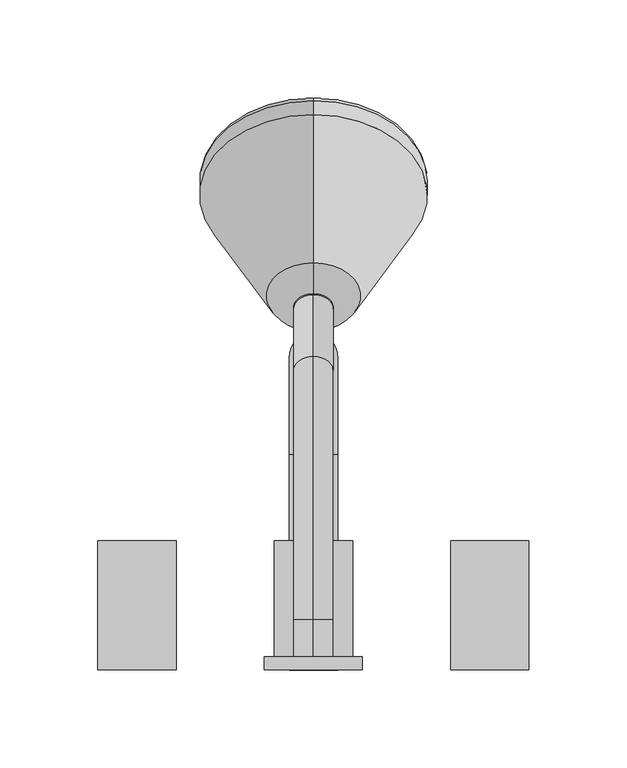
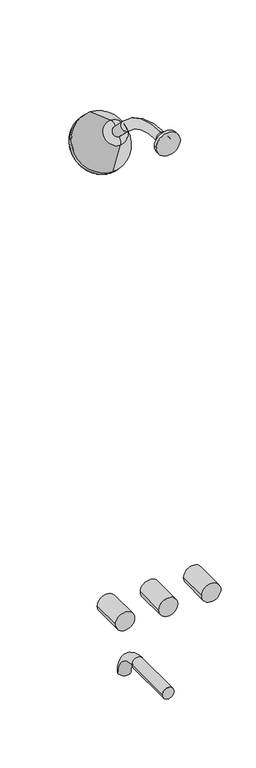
"""IFC4 building model written with IfcOpenShell, lengths in millimetres: flow terminal geometry, Cdo Ducha : Cdo Ducha."""

from ifc_helpers import new_model, si_unit, point, frame, frame_2d, origin, place, context, project, spatial, polyline, circle_curve, ellipse_curve, trimmed, segment, composite_curve, outline, extrude, source, transform, mapped, element, save
from ifc_brep_helpers import plane_surface, cylinder_surface, revolved_surface, advanced_brep


def flow_terminal_b83d6339(model_context):
    return source(origin(), model_context, "Body", "SolidModel", [
        extrude(outline(composite_curve([segment(trimmed(circle_curve(frame_2d((1020.0, 90.0)), 20.0), [point((1020.0, 110.0))], [point((1020.0, 70.0))], False, "CARTESIAN"), True, "CONTINUOUS"), segment(trimmed(circle_curve(frame_2d((1020.0, 90.0)), 20.0), [point((1020.0, 70.0))], [point((1020.0, 110.0))], False, "CARTESIAN"), True, "CONTINUOUS")], self_intersect=False)), frame((0.0, 0.0, 0.0), z_axis=(0.0, 1.0, 0.0), x_axis=(0.0, 0.0, 1.0)), (0.0, 0.0, 1.0), 66.0612949),
        extrude(outline(composite_curve([segment(trimmed(circle_curve(frame_2d((1020.0, -90.0)), 20.0), [point((1020.0, -110.0))], [point((1020.0, -70.0))], False, "CARTESIAN"), True, "CONTINUOUS"), segment(trimmed(circle_curve(frame_2d((1020.0, -90.0)), 20.0), [point((1020.0, -70.0))], [point((1020.0, -110.0))], False, "CARTESIAN"), True, "CONTINUOUS")], self_intersect=False)), frame((0.0, 0.0, 0.0), z_axis=(0.0, 1.0, 0.0), x_axis=(0.0, 0.0, 1.0)), (0.0, 0.0, 1.0), 66.0612949),
        advanced_brep(
        [(-12.3731491, 0.0, 830.0), (12.3731491, 0.0, 830.0), (-12.3731491, 110.0, 830.0), (12.3731491, 110.0, 830.0), (-12.3731491, 159.4974747, 780.5025253), (12.3731491, 159.4974747, 780.5025253)],
        [
            (0, 1, circle_curve(frame((0.0, 0.0, 830.0), z_axis=(0.0, -1.0, 0.0), x_axis=(1.0, 0.0, 0.0)), 12.3731491)),
            (1, 0, circle_curve(frame((0.0, 0.0, 830.0), z_axis=(0.0, -1.0, 0.0), x_axis=(1.0, 0.0, 0.0)), 12.3731491)),
            (0, 2),
            (2, 3, circle_curve(frame((0.0, 110.0, 830.0), z_axis=(0.0, -1.0, 0.0), x_axis=(1.0, 0.0, 0.0)), 12.3731491)),
            (3, 1),
            (3, 2, circle_curve(frame((0.0, 110.0, 830.0), z_axis=(0.0, -1.0, 0.0), x_axis=(1.0, 0.0, 0.0)), 12.3731491)),
            (4, 5, circle_curve(frame((0.0, 159.4974747, 780.5025253), z_axis=(0.0, 0.0, -1.0), x_axis=(1.0, 0.0, 0.0)), 12.3731491)),
            (5, 4, circle_curve(frame((0.0, 159.4974747, 780.5025253), z_axis=(0.0, 0.0, -1.0), x_axis=(1.0, 0.0, 0.0)), 12.3731491)),
            (5, 3, circle_curve(frame((12.3731491, 110.0, 780.5025253), z_axis=(1.0, 0.0, 0.0), x_axis=(0.0, 0.0, 1.0)), 49.4974747)),
            (2, 4, circle_curve(frame((-12.3731491, 110.0, 780.5025253), z_axis=(-1.0, 0.0, 0.0), x_axis=(0.0, 0.0, 1.0)), 49.4974747)),
        ],
        [
            plane_surface(frame((0.0, 0.0, 830.0), z_axis=(0.0, -1.0, 0.0), x_axis=(1.0, 0.0, 0.0))),
            cylinder_surface(frame((0.0, 0.0, 830.0), z_axis=(0.0, -1.0, 0.0), x_axis=(1.0, 0.0, 0.0)), 12.3731491),
            plane_surface(frame((0.0, 159.4974747, 780.5025253), z_axis=(0.0, 0.0, -1.0), x_axis=(1.0, 0.0, 0.0))),
            revolved_surface(trimmed(ellipse_curve(frame((0.0, 110.0, 830.0), z_axis=(0.0, -1.0, 0.0), x_axis=(1.0, 0.0, 0.0)), 12.3731491, 12.3731491), [point((-12.3731491, 110.0, 830.0))], [point((12.3731491, 110.0, 830.0))], True, "CARTESIAN"), (0.0, 110.0, 780.5025253), (-1.0, 0.0, 0.0)),
            revolved_surface(trimmed(ellipse_curve(frame((0.0, 110.0, 830.0), z_axis=(0.0, -1.0, 0.0), x_axis=(1.0, 0.0, 0.0)), 12.3731491, 12.3731491), [point((12.3731491, 110.0, 830.0))], [point((-12.3731491, 110.0, 830.0))], True, "CARTESIAN"), (0.0, 110.0, 780.5025253), (-1.0, 0.0, 0.0)),
        ],
        [
            (0, [[1, 2]]),
            (1, [[-1, 3, 4, 5]]),
            (1, [[-2, -5, 6, -3]]),
            (2, [[7, 8]]),
            (3, [[9, -4, 10, -8]]),
            (4, [[-10, -6, -9, -7]]),
        ],
    ),
        extrude(outline(composite_curve([segment(trimmed(circle_curve(frame_2d((1020.0, 0.0)), 20.0), [point((1020.0, -20.0))], [point((1020.0, 20.0))], False, "CARTESIAN"), True, "CONTINUOUS"), segment(trimmed(circle_curve(frame_2d((1020.0, 0.0)), 20.0), [point((1020.0, 20.0))], [point((1020.0, -20.0))], False, "CARTESIAN"), True, "CONTINUOUS")], self_intersect=False)), frame((0.0, 0.0, 0.0), z_axis=(0.0, 1.0, 0.0), x_axis=(0.0, 0.0, 1.0)), (0.0, 0.0, 1.0), 66.0612949),
        extrude(outline(composite_curve([segment(trimmed(circle_curve(frame_2d((2040.0, 0.0)), 25.0), [point((2040.0, -25.0))], [point((2040.0, 25.0))], False, "CARTESIAN"), True, "CONTINUOUS"), segment(trimmed(circle_curve(frame_2d((2040.0, 0.0)), 25.0), [point((2040.0, 25.0))], [point((2040.0, -25.0))], False, "CARTESIAN"), True, "CONTINUOUS")], self_intersect=False)), frame((0.0, 0.0, 0.0), z_axis=(0.0, 1.0, 0.0), x_axis=(0.0, 0.0, 1.0)), (0.0, 0.0, 1.0), 6.4821489),
        advanced_brep(
        [(0.0, 207.6624735, 1966.3331882), (0.0, 173.6668118, 1932.3375265), (0.0, 177.1555994, 1948.0744304), (0.0, 191.9255696, 1962.8444006), (0.0, 283.255056, 1938.8197382), (0.0, 201.1802618, 1856.744944), (0.0, 290.3261238, 1931.7486704), (0.0, 208.2513296, 1849.6738762), (0.0, 290.3261238, 1924.6776026), (0.0, 215.3223974, 1849.6738762), (0.0, 288.6229509, 1922.9744296), (0.0, 217.0255704, 1851.3770491), (0.0, 287.2087373, 1924.3886432), (0.0, 215.6113568, 1852.7912627), (0.0, 251.4100471, 1888.5899529), (0.0, 184.5405845, 1955.4594155)],
        [
            (0, 1, circle_curve(frame((0.0, 190.6646427, 1949.3353573), z_axis=(0.0, -0.7071067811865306, 0.7071067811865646), x_axis=(0.0, -0.7071067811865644, -0.7071067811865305)), 24.0385629)),
            (1, 2, circle_curve(frame((0.0, 187.7622012, 1937.4678286), z_axis=(-1.0, 0.0, 0.0), x_axis=(0.0, 1.0, 0.0)), 15.0)),
            (2, 3, circle_curve(frame((0.0, 184.5405845, 1955.4594155), z_axis=(0.0, 0.7071067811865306, -0.7071067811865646), x_axis=(0.0, -0.7071067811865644, -0.7071067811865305)), 10.4439461)),
            (3, 0, circle_curve(frame((0.0, 202.5321714, 1952.2377988), z_axis=(-1.0, 0.0, 0.0), x_axis=(0.0, 0.0, -1.0)), 15.0)),
            (1, 0, circle_curve(frame((0.0, 190.6646427, 1949.3353573), z_axis=(0.0, -0.7071067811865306, 0.7071067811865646), x_axis=(0.0, -0.7071067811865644, -0.7071067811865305)), 24.0385629)),
            (3, 2, circle_curve(frame((0.0, 184.5405845, 1955.4594155), z_axis=(0.0, 0.7071067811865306, -0.7071067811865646), x_axis=(0.0, -0.7071067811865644, -0.7071067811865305)), 10.4439461)),
            (4, 5, circle_curve(frame((0.0, 242.2176589, 1897.7823411), z_axis=(0.0, -0.7071067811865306, 0.7071067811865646), x_axis=(0.0, -0.7071067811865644, -0.7071067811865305)), 58.0356436)),
            (5, 1),
            (0, 4),
            (5, 4, circle_curve(frame((0.0, 242.2176589, 1897.7823411), z_axis=(0.0, -0.7071067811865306, 0.7071067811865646), x_axis=(0.0, -0.7071067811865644, -0.7071067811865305)), 58.0356436)),
            (6, 7, circle_curve(frame((0.0, 249.2887267, 1890.7112733), z_axis=(0.0, -0.7071067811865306, 0.7071067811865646), x_axis=(0.0, -0.7071067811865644, -0.7071067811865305)), 58.0356436)),
            (7, 5),
            (4, 6),
            (7, 6, circle_curve(frame((0.0, 249.2887267, 1890.7112733), z_axis=(0.0, -0.7071067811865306, 0.7071067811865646), x_axis=(0.0, -0.7071067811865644, -0.7071067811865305)), 58.0356436)),
            (8, 9, circle_curve(frame((0.0, 252.8242606, 1887.1757394), z_axis=(0.0, -0.7071067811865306, 0.7071067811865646), x_axis=(0.0, -0.7071067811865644, -0.7071067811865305)), 53.0356436)),
            (9, 7, circle_curve(frame((0.0, 211.7868635, 1853.2094101), z_axis=(-1.0, 0.0, 0.0), x_axis=(0.0, 1.0, 0.0)), 5.0)),
            (6, 8, circle_curve(frame((0.0, 286.7905899, 1928.2131365), z_axis=(-1.0, 0.0, 0.0), x_axis=(0.0, 0.0, -1.0)), 5.0)),
            (9, 8, circle_curve(frame((0.0, 252.8242606, 1887.1757394), z_axis=(0.0, -0.7071067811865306, 0.7071067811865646), x_axis=(0.0, -0.7071067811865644, -0.7071067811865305)), 53.0356436)),
            (10, 11, circle_curve(frame((0.0, 252.8242606, 1887.1757394), z_axis=(0.0, -0.7071067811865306, 0.7071067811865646), x_axis=(0.0, -0.7071067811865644, -0.7071067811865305)), 50.6269933)),
            (11, 9),
            (8, 10),
            (11, 10, circle_curve(frame((0.0, 252.8242606, 1887.1757394), z_axis=(0.0, -0.7071067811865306, 0.7071067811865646), x_axis=(0.0, -0.7071067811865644, -0.7071067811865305)), 50.6269933)),
            (12, 13, circle_curve(frame((0.0, 251.4100471, 1888.5899529), z_axis=(0.0, -0.7071067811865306, 0.7071067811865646), x_axis=(0.0, -0.7071067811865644, -0.7071067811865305)), 50.6269933)),
            (13, 11),
            (10, 12),
            (13, 12, circle_curve(frame((0.0, 251.4100471, 1888.5899529), z_axis=(0.0, -0.7071067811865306, 0.7071067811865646), x_axis=(0.0, -0.7071067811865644, -0.7071067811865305)), 50.6269933)),
            (14, 13),
            (12, 14),
            (2, 15),
            (15, 3),
        ],
        [
            revolved_surface(trimmed(ellipse_curve(frame((0.0, 187.7622012, 1937.4678286), z_axis=(1.0, 0.0, 0.0), x_axis=(0.0, 1.0, 0.0)), 15.0, 15.0), [point((0.0, 177.1555994, 1948.0744304))], [point((0.0, 173.6668118, 1932.3375265))], True, "CARTESIAN"), (0.0, 184.5405845, 1955.4594155), (0.0, 0.7071067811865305, -0.7071067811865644)),
            revolved_surface(polyline([(0.0, 173.6668118, 1932.3375265), (0.0, 201.1802618, 1856.744944)]), (0.0, 184.5405845, 1955.4594155), (0.0, 0.7071067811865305, -0.7071067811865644)),
            cylinder_surface(frame((0.0, 184.5405845, 1955.4594155), z_axis=(0.0, 0.7071067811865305, -0.7071067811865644), x_axis=(0.0, -0.7071067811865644, -0.7071067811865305)), 58.0356436),
            revolved_surface(trimmed(ellipse_curve(frame((0.0, 211.7868635, 1853.2094101), z_axis=(1.0, 0.0, 0.0), x_axis=(0.0, 1.0, 0.0)), 5.0, 5.0), [point((0.0, 208.2513296, 1849.6738762))], [point((0.0, 215.3223974, 1849.6738762))], True, "CARTESIAN"), (0.0, 184.5405845, 1955.4594155), (0.0, 0.7071067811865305, -0.7071067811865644)),
            plane_surface(frame((0.0, 252.8242606, 1887.1757394), z_axis=(0.0, 0.7071067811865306, -0.7071067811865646), x_axis=(0.0, -0.7071067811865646, -0.7071067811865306))),
            revolved_surface(polyline([(0.0, 217.0255703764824, 1851.3770490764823), (0.0, 215.61135677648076, 1852.7912626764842)]), (0.0, 184.5405845, 1955.4594155), (0.0, 0.7071067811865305, -0.7071067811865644)),
            plane_surface(frame((0.0, 251.4100471, 1888.5899529), z_axis=(0.0, 0.7071067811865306, -0.7071067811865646), x_axis=(0.0, -0.7071067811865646, -0.7071067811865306))),
            plane_surface(frame((0.0, 184.5405845, 1955.4594155), z_axis=(0.0, -0.7071067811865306, 0.7071067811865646), x_axis=(0.0, -0.7071067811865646, -0.7071067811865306))),
        ],
        [
            (0, [[1, 2, 3, 4]]),
            (0, [[5, -4, 6, -2]]),
            (1, [[7, 8, -1, 9]]),
            (1, [[10, -9, -5, -8]]),
            (2, [[11, 12, -7, 13]]),
            (2, [[14, -13, -10, -12]]),
            (3, [[15, 16, -11, 17]]),
            (3, [[18, -17, -14, -16]]),
            (4, [[19, 20, -15, 21]]),
            (4, [[22, -21, -18, -20]]),
            (5, [[23, 24, -19, 25]]),
            (5, [[26, -25, -22, -24]]),
            (6, [[27, -23, 28]]),
            (6, [[-28, -26, -27]]),
            (7, [[-3, 29, 30]]),
            (7, [[-6, -30, -29]]),
        ],
    ),
        advanced_brep(
        [(0.0, 6.4821489, 2030.0), (0.0, 6.4821489, 2050.0), (0.0, 25.4415588, 2030.0), (0.0, 25.4415588, 2050.0), (0.0, 159.7918472, 1994.3502884), (0.0, 145.6497116, 1980.2081528), (0.0, 177.4695167, 1948.3883476), (0.0, 191.6116524, 1962.5304833)],
        [
            (0, 1, circle_curve(frame((0.0, 6.4821489, 2040.0), z_axis=(0.0, -1.0, 0.0), x_axis=(0.0, 0.0, 1.0)), 10.0)),
            (1, 0, circle_curve(frame((0.0, 6.4821489, 2040.0), z_axis=(0.0, -1.0, 0.0), x_axis=(0.0, 0.0, 1.0)), 10.0)),
            (0, 2),
            (2, 3, circle_curve(frame((0.0, 25.4415588, 2040.0), z_axis=(0.0, -1.0, 0.0), x_axis=(0.0, 0.0, 1.0)), 10.0)),
            (3, 1),
            (3, 2, circle_curve(frame((0.0, 25.4415588, 2040.0), z_axis=(0.0, -1.0, 0.0), x_axis=(0.0, 0.0, 1.0)), 10.0)),
            (4, 3, circle_curve(frame((0.0, 25.4415588, 1860.0), z_axis=(1.0, 0.0, 0.0), x_axis=(0.0, 0.0, 1.0)), 190.0)),
            (2, 5, circle_curve(frame((0.0, 25.4415588, 1860.0), z_axis=(-1.0, 0.0, 0.0), x_axis=(0.0, 0.0, 1.0)), 170.0)),
            (5, 4, circle_curve(frame((0.0, 152.7207794, 1987.2792206), z_axis=(0.0, -0.7071067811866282, 0.7071067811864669), x_axis=(0.0, 0.7071067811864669, 0.7071067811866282)), 10.0)),
            (4, 5, circle_curve(frame((0.0, 152.7207794, 1987.2792206), z_axis=(0.0, -0.707106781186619, 0.7071067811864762), x_axis=(0.0, 0.7071067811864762, 0.707106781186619)), 10.0)),
            (6, 7, circle_curve(frame((0.0, 184.5405845, 1955.4594155), z_axis=(0.0, 0.7071067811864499, -0.7071067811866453), x_axis=(0.0, 0.7071067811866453, 0.7071067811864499)), 10.0)),
            (7, 6, circle_curve(frame((0.0, 184.5405845, 1955.4594155), z_axis=(0.0, 0.7071067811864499, -0.7071067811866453), x_axis=(0.0, 0.7071067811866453, 0.7071067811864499)), 10.0)),
            (5, 6),
            (7, 4),
        ],
        [
            plane_surface(frame((0.0, 6.4821489, 2040.0), z_axis=(0.0, -1.0, 0.0), x_axis=(1.0, 0.0, 0.0))),
            cylinder_surface(frame((0.0, 6.4821489, 2040.0), z_axis=(0.0, -1.0, 0.0), x_axis=(0.0, 0.0, 1.0)), 10.0),
            revolved_surface(trimmed(ellipse_curve(frame((0.0, 25.4415588, 2040.0), z_axis=(0.0, -1.0, 0.0), x_axis=(0.0, 0.0, 1.0)), 10.0, 10.0), [point((0.0, 25.4415588, 2030.0))], [point((0.0, 25.4415588, 2050.0))], True, "CARTESIAN"), (0.0, 25.4415588, 1860.0), (-1.0, 0.0, 0.0)),
            revolved_surface(trimmed(ellipse_curve(frame((0.0, 25.4415588, 2040.0), z_axis=(0.0, -1.0, 0.0), x_axis=(0.0, 0.0, 1.0)), 10.0, 10.0), [point((0.0, 25.4415588, 2050.0))], [point((0.0, 25.4415588, 2030.0))], True, "CARTESIAN"), (0.0, 25.4415588, 1860.0), (-1.0, 0.0, 0.0)),
            plane_surface(frame((0.0, 184.5405845, 1955.4594155), z_axis=(0.0, 0.7071067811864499, -0.7071067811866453), x_axis=(1.0, 0.0, 0.0))),
            cylinder_surface(frame((0.0, 152.7207794, 1987.2792206), z_axis=(0.0, -0.7071067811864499, 0.7071067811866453), x_axis=(0.0, 0.7071067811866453, 0.7071067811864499)), 10.0),
        ],
        [
            (0, [[1, 2]]),
            (1, [[-1, 3, 4, 5]]),
            (1, [[-2, -5, 6, -3]]),
            (2, [[7, -4, 8, 9]]),
            (3, [[-8, -6, -7, 10]]),
            (4, [[11, 12]]),
            (5, [[-9, 13, -12, 14]]),
            (5, [[-10, -14, -11, -13]]),
        ],
    ),
    ])


if __name__ == "__main__":
    model = new_model("IFC4")
    model_context = context("Model", 3, world=origin())
    ifc_project = project(units=[si_unit("LENGTHUNIT", "METRE", prefix="MILLI")], contexts=[model_context])
    site = spatial("IfcSite", under=ifc_project)
    building = spatial("IfcBuilding", under=site)
    placement = place(None, origin())
    flow_terminal_shape = flow_terminal_b83d6339(model_context)
    element("IfcFlowTerminal", 1, ObjectType="Cdo Ducha : Cdo Ducha", at=placement, inside=building, context=model_context, shape_type="MappedRepresentation", body=[
        mapped(flow_terminal_shape, transform((0.0, 0.0, 0.0), x_axis=(1.0, 0.0, 0.0), y_axis=(0.0, 1.0, 0.0), z_axis=(0.0, 0.0, 1.0))),
    ])
    save(model, "model.ifc")
